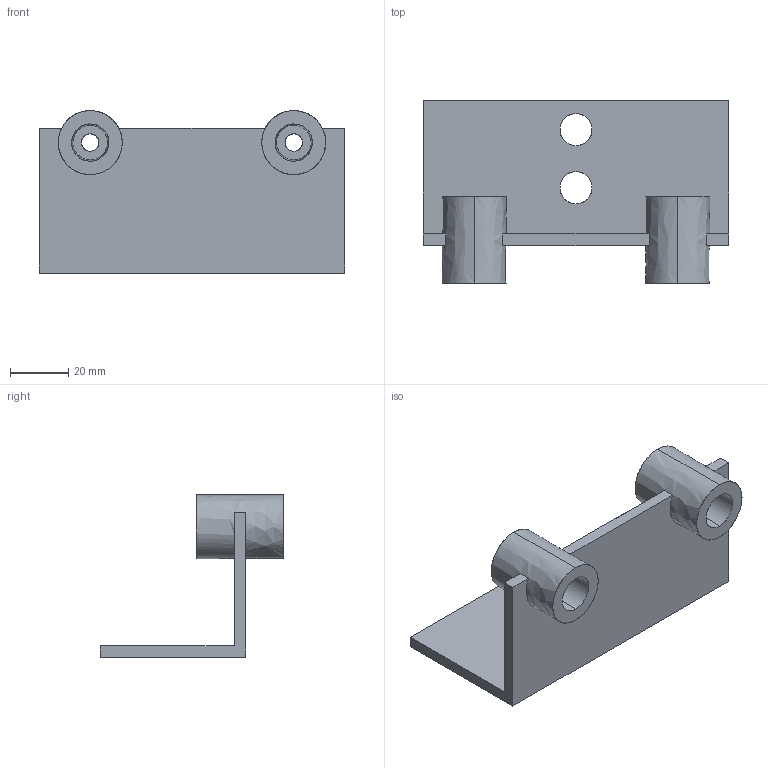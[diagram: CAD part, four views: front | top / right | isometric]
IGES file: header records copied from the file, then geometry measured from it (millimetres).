
Global section: file name: E:\UnigraphicsGraphicData\MISUMI_PRESS-PARTS\IGES\3d_tahk-c-1_01846_r00.igs; native system: NX V5.0; preprocessor: UGS NX IGES V5.0; author: MISUMI; date: 20110105.163348; units: millimetre
Bounding box: 105 x 63 x 56 mm (x, y, z)
Surface area: 27295.1 mm2 (no closed solid volume)
Topology: 0 solids, 0 shells, 40 faces, 324 edges, 324 vertices
Faces by surface type: bspline 40
